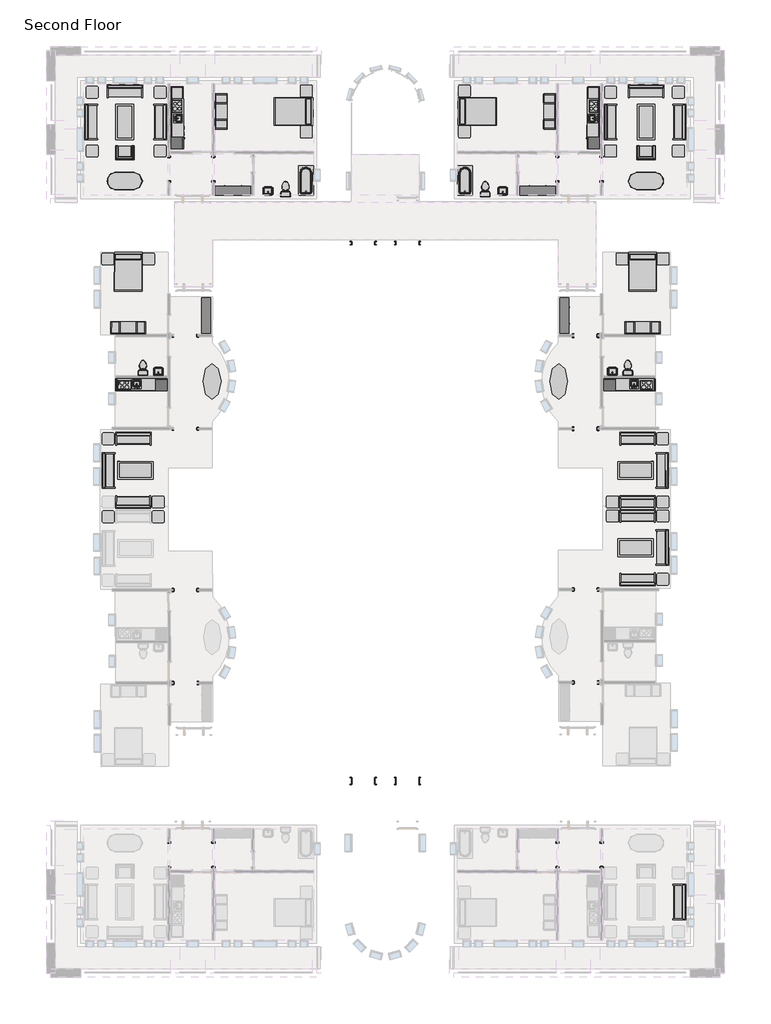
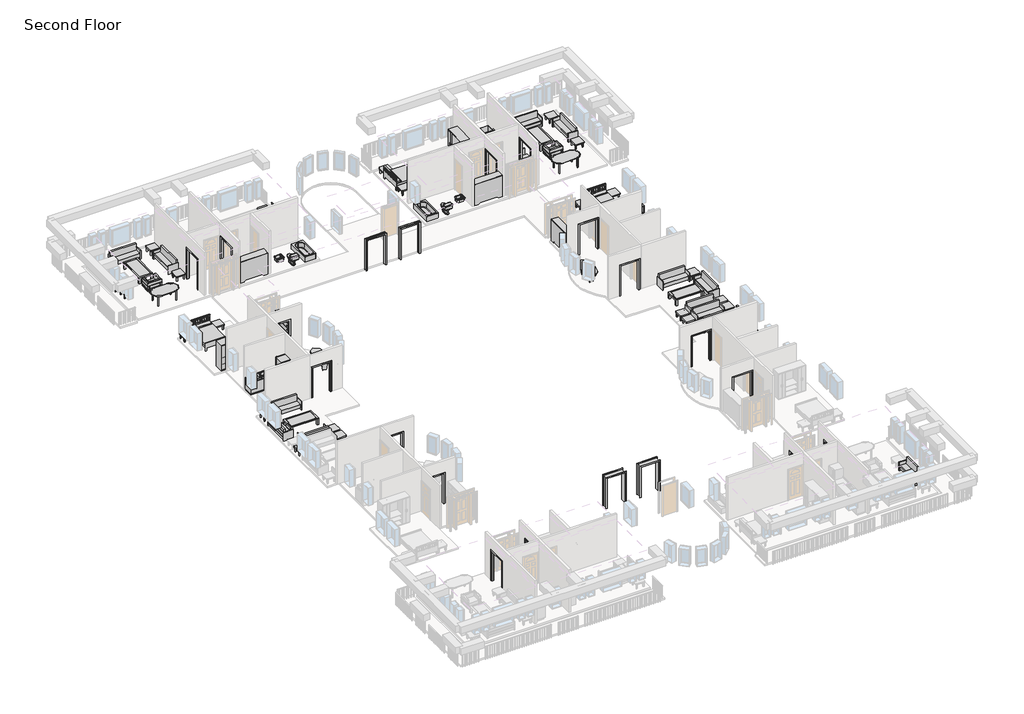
# One storey, part 6 of 6: 65 furniture elements, 24 proxies, 10 flow terminals.
"""IFC4 building model written with IfcOpenShell, lengths in millimetres."""

from ifc_helpers import new_model, si_unit, origin, place, context, project, spatial, transform, mapped, element, save
from components import kitchenette_medium_5_9f73a4de, kitchenette_medium_5_952fb32b, proxy_64a468c4, proxy_b7eaed23, proxy_1227038f, proxy_f44482cc, proxy_d58c73d0, proxy_1659ed5c, flow_terminal_0aeb31e3, flow_terminal_b53e1081, toilet_domestic_3d_toilet_domestic_3d_f7549cf7, toilet_domestic_3d_toilet_domestic_3d_183bbd19, toilet_domestic_3d_toilet_domestic_3d_a08e12bc, toilet_domestic_3d_toilet_domestic_3d_5530cc89, tub_rectangular_3d_tub_rectangular_3d_5e45a89b, tub_rectangular_3d_tub_rectangular_3d_98eb9c7c, furniture_096e7f55, furniture_097b173b, chair_corbu_chair_corbu_2764bdef, chair_corbu_chair_corbu_95fad79a, furniture_7c473f12, furniture_f6e81328, furniture_ddc78764, furniture_328d9d47, furniture_4ef38d96, furniture_dde8a40a, furniture_cd93a443, furniture_c9413244, furniture_2c34a4f9, furniture_cc351095, furniture_43880056, furniture_a7425590, furniture_3a588284, furniture_1befe2a2

model = new_model("IFC4")

# Units and contexts
model_context = context("Model", 3, world=origin())
ifc_project = project(units=[si_unit("LENGTHUNIT", "METRE", prefix="MILLI")], contexts=[model_context])

# Site, building, storey
site = spatial("IfcSite", under=ifc_project)
building = spatial("IfcBuilding", under=site)
storey = spatial("IfcBuildingStorey", under=building, Name="Second Floor", Elevation=3048.0)

# Proxies
placement = place(None, origin())
kitchenette_medium_5_shape = kitchenette_medium_5_9f73a4de(model_context)
element("IfcBuildingElementProxy", 1, Name="Kitchenette - Medium : 5'", ObjectType="Kitchenette - Medium : 5'", at=placement, inside=storey, context=model_context, shape_type="MappedRepresentation", body=[
    mapped(kitchenette_medium_5_shape, transform((-1753.4618267, -5560.5904816, 3048.0), x_axis=(-0.999999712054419, -0.0007588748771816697, 0.0), y_axis=(0.0007588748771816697, -0.999999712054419, 0.0), z_axis=(0.0, 0.0, 1.0))),
])
kitchenette_medium_5_2_shape = kitchenette_medium_5_952fb32b(model_context)
element("IfcBuildingElementProxy", 2, Name="Kitchenette - Medium : 5'", ObjectType="Kitchenette - Medium : 5'", at=placement, inside=storey, context=model_context, shape_type="MappedRepresentation", body=[
    mapped(kitchenette_medium_5_2_shape, transform((-28116.8810859, -5560.5904816, 3048.0), x_axis=(0.999999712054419, -0.0007588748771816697, 0.0), y_axis=(0.0007588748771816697, 0.999999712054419, 0.0), z_axis=(0.0, 0.0, 1.0))),
])
proxy_shape = proxy_64a468c4(model_context)
element("IfcBuildingElementProxy", 3, Name="Kitchenette - Medium : 8'6\"", ObjectType="Kitchenette - Medium : 8'6\"", at=placement, inside=storey, context=model_context, shape_type="MappedRepresentation", body=[
    mapped(proxy_shape, transform((-3887.7589563, 8837.7956433, 3048.0), x_axis=(0.0, -1.0, 0.0), y_axis=(1.0, 0.0, 0.0), z_axis=(0.0, 0.0, 1.0))),
])
proxy_2_shape = proxy_b7eaed23(model_context)
element("IfcBuildingElementProxy", 4, Name="Kitchenette - Medium : 8'6\"", ObjectType="Kitchenette - Medium : 8'6\"", at=placement, inside=storey, context=model_context, shape_type="MappedRepresentation", body=[
    mapped(proxy_2_shape, transform((-25982.5839563, 8837.7956433, 3048.0), x_axis=(0.0, -1.0, 0.0), y_axis=(1.0, 0.0, 0.0), z_axis=(0.0, 0.0, 1.0))),
])
proxy_3_shape = proxy_1227038f(model_context)
element("IfcBuildingElementProxy", 5, Name="Opening-Cased : 48\" x 84\"", ObjectType="Opening-Cased : 48\" x 84\"", at=placement, inside=storey, context=model_context, shape_type="MappedRepresentation", body=[
    mapped(proxy_3_shape, transform((-16086.360113, 2064.2316867, 3048.0), x_axis=(-1.0, 0.0, 0.0), y_axis=(0.0, -1.0, 0.0), z_axis=(0.0, 0.0, 1.0))),
])
element("IfcBuildingElementProxy", 6, Name="Opening-Cased : 48\" x 84\"", ObjectType="Opening-Cased : 48\" x 84\"", at=placement, inside=storey, context=model_context, shape_type="MappedRepresentation", body=[
    mapped(proxy_3_shape, transform((-13800.360113, 2064.2316867, 3048.0), x_axis=(-1.0, 0.0, 0.0), y_axis=(0.0, -1.0, 0.0), z_axis=(0.0, 0.0, 1.0))),
])
element("IfcBuildingElementProxy", 7, Name="Opening-Cased : 48\" x 84\"", ObjectType="Opening-Cased : 48\" x 84\"", at=placement, inside=storey, context=model_context, shape_type="MappedRepresentation", body=[
    mapped(proxy_3_shape, transform((-4617.8254596, -2712.3652832, 3048.0), x_axis=(-0.9999997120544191, -0.0007588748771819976, 0.0), y_axis=(0.0007588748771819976, -0.9999997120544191, 0.0), z_axis=(0.0, 0.0, 1.0))),
])
element("IfcBuildingElementProxy", 8, Name="Opening-Cased : 48\" x 84\"", ObjectType="Opening-Cased : 48\" x 84\"", at=placement, inside=storey, context=model_context, shape_type="MappedRepresentation", body=[
    mapped(proxy_3_shape, transform((-4597.8075056, -7509.7764734, 3048.0), x_axis=(0.9999997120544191, 0.0007588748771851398, 0.0), y_axis=(-0.0007588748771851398, 0.9999997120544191, 0.0), z_axis=(0.0, 0.0, 1.0))),
])
proxy_4_shape = proxy_f44482cc(model_context)
element("IfcBuildingElementProxy", 9, Name="Opening-Cased : 48\" x 84\"", ObjectType="Opening-Cased : 48\" x 84\"", at=placement, inside=storey, context=model_context, shape_type="MappedRepresentation", body=[
    mapped(proxy_4_shape, transform((-3773.4589563, 5882.4203434, 3048.0), x_axis=(0.0, 1.0, 0.0), y_axis=(-1.0, 0.0, 0.0), z_axis=(0.0, 0.0, 1.0))),
])
element("IfcBuildingElementProxy", 10, Name="Opening-Cased : 48\" x 84\"", ObjectType="Opening-Cased : 48\" x 84\"", at=placement, inside=storey, context=model_context, shape_type="MappedRepresentation", body=[
    mapped(proxy_4_shape, transform((-6059.4589563, 5866.04303, 3048.0), x_axis=(0.0, -1.0, 0.0), y_axis=(1.0, 0.0, 0.0), z_axis=(0.0, 0.0, 1.0))),
])
element("IfcBuildingElementProxy", 11, Name="Opening-Cased : 48\" x 84\"", ObjectType="Opening-Cased : 48\" x 84\"", at=placement, inside=storey, context=model_context, shape_type="MappedRepresentation", body=[
    mapped(proxy_4_shape, transform((-26096.8839563, -29490.75697, 3048.0), x_axis=(0.0, -1.0, 0.0), y_axis=(1.0, 0.0, 0.0), z_axis=(0.0, 0.0, 1.0))),
])
element("IfcBuildingElementProxy", 12, Name="Opening-Cased : 48\" x 84\"", ObjectType="Opening-Cased : 48\" x 84\"", at=placement, inside=storey, context=model_context, shape_type="MappedRepresentation", body=[
    mapped(proxy_4_shape, transform((-23810.8839563, -29474.3796566, 3048.0), x_axis=(0.0, 1.0, 0.0), y_axis=(-1.0, 0.0, 0.0), z_axis=(0.0, 0.0, 1.0))),
])
element("IfcBuildingElementProxy", 13, Name="Opening-Cased : 48\" x 84\"", ObjectType="Opening-Cased : 48\" x 84\"", at=placement, inside=storey, context=model_context, shape_type="MappedRepresentation", body=[
    mapped(proxy_4_shape, transform((-25238.9236624, -20625.4457115, 3048.0), x_axis=(0.9999974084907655, 0.0022766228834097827, 0.0), y_axis=(-0.0022766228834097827, 0.9999974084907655, 0.0), z_axis=(0.0, 0.0, 1.0))),
])
element("IfcBuildingElementProxy", 14, Name="Opening-Cased : 48\" x 84\"", ObjectType="Opening-Cased : 48\" x 84\"", at=placement, inside=storey, context=model_context, shape_type="MappedRepresentation", body=[
    mapped(proxy_4_shape, transform((-25266.2228609, -15828.0704291, 3048.0), x_axis=(-0.9999974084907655, -0.002276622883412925, 0.0), y_axis=(0.002276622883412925, -0.9999974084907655, 0.0), z_axis=(0.0, 0.0, 1.0))),
])
proxy_5_shape = proxy_d58c73d0(model_context)
element("IfcBuildingElementProxy", 15, Name="Opening-Cased : 48\" x 84\"", ObjectType="Opening-Cased : 48\" x 84\"", at=placement, inside=storey, context=model_context, shape_type="MappedRepresentation", body=[
    mapped(proxy_5_shape, transform((-26096.8839563, 5882.4203434, 3048.0), x_axis=(0.0, 1.0, 0.0), y_axis=(-1.0, 0.0, 0.0), z_axis=(0.0, 0.0, 1.0))),
])
element("IfcBuildingElementProxy", 16, Name="Opening-Cased : 48\" x 84\"", ObjectType="Opening-Cased : 48\" x 84\"", at=placement, inside=storey, context=model_context, shape_type="MappedRepresentation", body=[
    mapped(proxy_5_shape, transform((-23810.8839563, 5866.04303, 3048.0), x_axis=(0.0, -1.0, 0.0), y_axis=(1.0, 0.0, 0.0), z_axis=(0.0, 0.0, 1.0))),
])
element("IfcBuildingElementProxy", 17, Name="Opening-Cased : 48\" x 84\"", ObjectType="Opening-Cased : 48\" x 84\"", at=placement, inside=storey, context=model_context, shape_type="MappedRepresentation", body=[
    mapped(proxy_5_shape, transform((-3773.4589563, -29490.75697, 3048.0), x_axis=(0.0, -1.0, 0.0), y_axis=(1.0, 0.0, 0.0), z_axis=(0.0, 0.0, 1.0))),
])
element("IfcBuildingElementProxy", 18, Name="Opening-Cased : 48\" x 84\"", ObjectType="Opening-Cased : 48\" x 84\"", at=placement, inside=storey, context=model_context, shape_type="MappedRepresentation", body=[
    mapped(proxy_5_shape, transform((-6059.4589563, -29474.3796566, 3048.0), x_axis=(0.0, 1.0, 0.0), y_axis=(-1.0, 0.0, 0.0), z_axis=(0.0, 0.0, 1.0))),
])
element("IfcBuildingElementProxy", 19, Name="Opening-Cased : 48\" x 84\"", ObjectType="Opening-Cased : 48\" x 84\"", at=placement, inside=storey, context=model_context, shape_type="MappedRepresentation", body=[
    mapped(proxy_5_shape, transform((-25252.517453, -2712.3652832, 3048.0), x_axis=(0.9999997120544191, -0.0007588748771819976, 0.0), y_axis=(0.0007588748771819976, 0.9999997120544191, 0.0), z_axis=(0.0, 0.0, 1.0))),
])
element("IfcBuildingElementProxy", 20, Name="Opening-Cased : 48\" x 84\"", ObjectType="Opening-Cased : 48\" x 84\"", at=placement, inside=storey, context=model_context, shape_type="MappedRepresentation", body=[
    mapped(proxy_5_shape, transform((-25272.535407, -7509.7764734, 3048.0), x_axis=(-0.9999997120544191, 0.0007588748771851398, 0.0), y_axis=(-0.0007588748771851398, -0.9999997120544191, 0.0), z_axis=(0.0, 0.0, 1.0))),
])
element("IfcBuildingElementProxy", 21, Name="Opening-Cased : 48\" x 84\"", ObjectType="Opening-Cased : 48\" x 84\"", at=placement, inside=storey, context=model_context, shape_type="MappedRepresentation", body=[
    mapped(proxy_5_shape, transform((-4604.2554357, -20594.1274219, 3048.0), x_axis=(-0.9999997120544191, -0.0007588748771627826, 0.0), y_axis=(0.0007588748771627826, -0.9999997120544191, 0.0), z_axis=(0.0, 0.0, 1.0))),
])
element("IfcBuildingElementProxy", 22, Name="Opening-Cased : 48\" x 84\"", ObjectType="Opening-Cased : 48\" x 84\"", at=placement, inside=storey, context=model_context, shape_type="MappedRepresentation", body=[
    mapped(proxy_5_shape, transform((-4591.5187723, -15796.6913749, 3048.0), x_axis=(0.9999997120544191, 0.0007588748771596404, 0.0), y_axis=(-0.0007588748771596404, 0.9999997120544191, 0.0), z_axis=(0.0, 0.0, 1.0))),
])
proxy_6_shape = proxy_1659ed5c(model_context)
element("IfcBuildingElementProxy", 23, Name="Opening-Cased : 48\" x 84\"", ObjectType="Opening-Cased : 48\" x 84\"", at=placement, inside=storey, context=model_context, shape_type="MappedRepresentation", body=[
    mapped(proxy_6_shape, transform((-16086.360113, -25672.5683133, 3048.0), x_axis=(-1.0, 0.0, 0.0), y_axis=(0.0, -1.0, 0.0), z_axis=(0.0, 0.0, 1.0))),
])
element("IfcBuildingElementProxy", 24, Name="Opening-Cased : 48\" x 84\"", ObjectType="Opening-Cased : 48\" x 84\"", at=placement, inside=storey, context=model_context, shape_type="MappedRepresentation", body=[
    mapped(proxy_6_shape, transform((-13800.360113, -25672.5683133, 3048.0), x_axis=(-1.0, 0.0, 0.0), y_axis=(0.0, -1.0, 0.0), z_axis=(0.0, 0.0, 1.0))),
])

# Flow terminals
flow_terminal_shape = flow_terminal_0aeb31e3(model_context)
element("IfcFlowTerminal", 25, ObjectType="Sink Vanity-Square : 24\" x 19\"", at=placement, inside=storey, context=model_context, shape_type="MappedRepresentation", body=[
    mapped(flow_terminal_shape, transform((-8864.7572157, 4706.5895878, 3048.0), x_axis=(-1.0, 0.0, 0.0), y_axis=(0.0, -1.0, 0.0), z_axis=(0.0, 0.0, 1.0))),
])
element("IfcFlowTerminal", 26, ObjectType="Sink Vanity-Square : 24\" x 19\"", at=placement, inside=storey, context=model_context, shape_type="MappedRepresentation", body=[
    mapped(flow_terminal_shape, transform((-3205.2166877, -4601.2484326, 3048.0), x_axis=(-0.999999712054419, -0.0007588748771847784, 0.0), y_axis=(0.0007588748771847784, -0.999999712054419, 0.0), z_axis=(0.0, 0.0, 1.0))),
])
flow_terminal_2_shape = flow_terminal_b53e1081(model_context)
element("IfcFlowTerminal", 27, ObjectType="Sink Vanity-Square : 24\" x 19\"", at=placement, inside=storey, context=model_context, shape_type="MappedRepresentation", body=[
    mapped(flow_terminal_2_shape, transform((-21005.5856969, 4706.5895878, 3048.0), x_axis=(1.0, 0.0, 0.0), y_axis=(0.0, 1.0, 0.0), z_axis=(0.0, 0.0, 1.0))),
])
element("IfcFlowTerminal", 28, ObjectType="Sink Vanity-Square : 24\" x 19\"", at=placement, inside=storey, context=model_context, shape_type="MappedRepresentation", body=[
    mapped(flow_terminal_2_shape, transform((-26665.126225, -4601.2484326, 3048.0), x_axis=(0.999999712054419, -0.0007588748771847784, 0.0), y_axis=(0.0007588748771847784, 0.999999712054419, 0.0), z_axis=(0.0, 0.0, 1.0))),
])
toilet_domestic_3d_toilet_domestic_3d_shape = toilet_domestic_3d_toilet_domestic_3d_f7549cf7(model_context)
toilet_domestic_3d_toilet_domestic_3d_2_shape = toilet_domestic_3d_toilet_domestic_3d_183bbd19(model_context)
element("IfcFlowTerminal", 29, ObjectType="Toilet-Domestic-3D : Toilet-Domestic-3D", at=placement, inside=storey, context=model_context, shape_type="MappedRepresentation", body=[
    mapped(toilet_domestic_3d_toilet_domestic_3d_shape, transform((-9782.1466587, 4940.866411, 3048.0), x_axis=(-1.0000000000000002, 0.0, 0.0), y_axis=(0.0, -1.0000000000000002, 0.0), z_axis=(0.0, 0.0, 1.0))),
    mapped(toilet_domestic_3d_toilet_domestic_3d_2_shape, transform((-9782.1466587, 4940.866411, 3048.0), x_axis=(-1.0000000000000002, 0.0, 0.0), y_axis=(0.0, -1.0000000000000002, 0.0), z_axis=(0.0, 0.0, 1.0))),
])
element("IfcFlowTerminal", 30, ObjectType="Toilet-Domestic-3D : Toilet-Domestic-3D", at=placement, inside=storey, context=model_context, shape_type="MappedRepresentation", body=[
    mapped(toilet_domestic_3d_toilet_domestic_3d_shape, transform((-2425.8657006, -4275.1410966, 3048.0), x_axis=(-0.9999997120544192, -0.0007588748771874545, 0.0), y_axis=(0.0007588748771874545, -0.9999997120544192, 0.0), z_axis=(0.0, 0.0, 1.0))),
    mapped(toilet_domestic_3d_toilet_domestic_3d_2_shape, transform((-2425.8657006, -4275.1410966, 3048.0), x_axis=(-0.9999997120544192, -0.0007588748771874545, 0.0), y_axis=(0.0007588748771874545, -0.9999997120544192, 0.0), z_axis=(0.0, 0.0, 1.0))),
])
toilet_domestic_3d_toilet_domestic_3d_3_shape = toilet_domestic_3d_toilet_domestic_3d_a08e12bc(model_context)
toilet_domestic_3d_toilet_domestic_3d_4_shape = toilet_domestic_3d_toilet_domestic_3d_5530cc89(model_context)
element("IfcFlowTerminal", 31, ObjectType="Toilet-Domestic-3D : Toilet-Domestic-3D", at=placement, inside=storey, context=model_context, shape_type="MappedRepresentation", body=[
    mapped(toilet_domestic_3d_toilet_domestic_3d_3_shape, transform((-20088.1962539, 4940.866411, 3048.0), x_axis=(1.0000000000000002, 0.0, 0.0), y_axis=(0.0, 1.0000000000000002, 0.0), z_axis=(0.0, 0.0, 1.0))),
    mapped(toilet_domestic_3d_toilet_domestic_3d_4_shape, transform((-20088.1962539, 4940.866411, 3048.0), x_axis=(1.0000000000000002, 0.0, 0.0), y_axis=(0.0, 1.0000000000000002, 0.0), z_axis=(0.0, 0.0, 1.0))),
])
element("IfcFlowTerminal", 32, ObjectType="Toilet-Domestic-3D : Toilet-Domestic-3D", at=placement, inside=storey, context=model_context, shape_type="MappedRepresentation", body=[
    mapped(toilet_domestic_3d_toilet_domestic_3d_3_shape, transform((-27444.477212, -4275.1410966, 3048.0), x_axis=(0.9999997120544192, -0.0007588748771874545, 0.0), y_axis=(0.0007588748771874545, 0.9999997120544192, 0.0), z_axis=(0.0, 0.0, 1.0))),
    mapped(toilet_domestic_3d_toilet_domestic_3d_4_shape, transform((-27444.477212, -4275.1410966, 3048.0), x_axis=(0.9999997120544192, -0.0007588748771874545, 0.0), y_axis=(0.0007588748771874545, 0.9999997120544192, 0.0), z_axis=(0.0, 0.0, 1.0))),
])
tub_rectangular_3d_tub_rectangular_3d_shape = tub_rectangular_3d_tub_rectangular_3d_5e45a89b(model_context)
element("IfcFlowTerminal", 33, ObjectType="Tub-Rectangular-3D : Tub-Rectangular-3D", at=placement, inside=storey, context=model_context, shape_type="MappedRepresentation", body=[
    mapped(tub_rectangular_3d_tub_rectangular_3d_shape, transform((-11393.4589563, 5637.0471554, 3048.0), x_axis=(0.0, 1.0, 0.0), y_axis=(-1.0, 0.0, 0.0), z_axis=(0.0, 0.0, 1.0))),
])
tub_rectangular_3d_tub_rectangular_3d_2_shape = tub_rectangular_3d_tub_rectangular_3d_98eb9c7c(model_context)
element("IfcFlowTerminal", 34, ObjectType="Tub-Rectangular-3D : Tub-Rectangular-3D", at=placement, inside=storey, context=model_context, shape_type="MappedRepresentation", body=[
    mapped(tub_rectangular_3d_tub_rectangular_3d_2_shape, transform((-18476.8839563, 5637.0471554, 3048.0), x_axis=(0.0, 1.0, 0.0), y_axis=(-1.0, 0.0, 0.0), z_axis=(0.0, 0.0, 1.0))),
])

# Furniture
furniture_shape = furniture_096e7f55(model_context)
element("IfcFurniture", 35, ObjectType="Bed-Shaker : Double 56\" x 78\"", at=placement, inside=storey, context=model_context, shape_type="MappedRepresentation", body=[
    mapped(furniture_shape, transform((-11183.1982802, 8871.8755561, 3048.0), x_axis=(0.0, 1.0, 0.0), y_axis=(-1.0, 0.0, 0.0), z_axis=(0.0, 0.0, 1.0))),
])
element("IfcFurniture", 36, ObjectType="Bed-Shaker : Double 56\" x 78\"", at=placement, inside=storey, context=model_context, shape_type="MappedRepresentation", body=[
    mapped(furniture_shape, transform((-1645.8091062, 1570.2636135, 3048.0), x_axis=(0.999999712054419, 0.0007588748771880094, 0.0), y_axis=(-0.0007588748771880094, 0.999999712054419, 0.0), z_axis=(0.0, 0.0, 1.0))),
])
furniture_2_shape = furniture_097b173b(model_context)
element("IfcFurniture", 37, ObjectType="Bed-Shaker : Double 56\" x 78\"", at=placement, inside=storey, context=model_context, shape_type="MappedRepresentation", body=[
    mapped(furniture_2_shape, transform((-18687.1446324, 8871.8755561, 3048.0), x_axis=(0.0, 1.0, 0.0), y_axis=(-1.0, 0.0, 0.0), z_axis=(0.0, 0.0, 1.0))),
])
element("IfcFurniture", 38, ObjectType="Bed-Shaker : Double 56\" x 78\"", at=placement, inside=storey, context=model_context, shape_type="MappedRepresentation", body=[
    mapped(furniture_2_shape, transform((-28224.5338064, 1570.2636135, 3048.0), x_axis=(-0.999999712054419, 0.0007588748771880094, 0.0), y_axis=(-0.0007588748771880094, -0.999999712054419, 0.0), z_axis=(0.0, 0.0, 1.0))),
])
chair_corbu_chair_corbu_shape = chair_corbu_chair_corbu_2764bdef(model_context)
element("IfcFurniture", 39, ObjectType="Chair-Corbu : Chair-Corbu", at=placement, inside=storey, context=model_context, shape_type="MappedRepresentation", body=[
    mapped(chair_corbu_chair_corbu_shape, transform((-914.0851858, 7193.4962359, 3048.0), x_axis=(-1.0, 0.0, 0.0), y_axis=(0.0, -1.0, 0.0), z_axis=(0.0, 0.0, 1.0))),
])
chair_corbu_chair_corbu_2_shape = chair_corbu_chair_corbu_95fad79a(model_context)
element("IfcFurniture", 40, ObjectType="Chair-Corbu : Chair-Corbu", at=placement, inside=storey, context=model_context, shape_type="MappedRepresentation", body=[
    mapped(chair_corbu_chair_corbu_2_shape, transform((-28956.2577268, 7193.4962359, 3048.0), x_axis=(1.0, 0.0, 0.0), y_axis=(0.0, 1.0, 0.0), z_axis=(0.0, 0.0, 1.0))),
])
furniture_3_shape = furniture_7c473f12(model_context)
element("IfcFurniture", 41, ObjectType="Dresser : 72\" x 60\" x 18\"", at=placement, inside=storey, context=model_context, shape_type="MappedRepresentation", body=[
    mapped(furniture_3_shape, transform((-7344.6522161, 4404.5812326, 3048.0), x_axis=(-1.0, 0.0, 0.0), y_axis=(0.0, -1.0, 0.0), z_axis=(0.0, 0.0, 1.0))),
])
element("IfcFurniture", 42, ObjectType="Dresser : 72\" x 60\" x 18\"", at=placement, inside=storey, context=model_context, shape_type="MappedRepresentation", body=[
    mapped(furniture_3_shape, transform((-6053.2912845, -1406.3342018, 3048.0), x_axis=(-0.0007588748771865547, 0.999999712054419, 0.0), y_axis=(-0.999999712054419, -0.0007588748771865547, 0.0), z_axis=(0.0, 0.0, 1.0))),
])
furniture_4_shape = furniture_f6e81328(model_context)
element("IfcFurniture", 43, ObjectType="Dresser : 72\" x 60\" x 18\"", at=placement, inside=storey, context=model_context, shape_type="MappedRepresentation", body=[
    mapped(furniture_4_shape, transform((-22525.6906965, 4404.5812326, 3048.0), x_axis=(1.0, 0.0, 0.0), y_axis=(0.0, 1.0, 0.0), z_axis=(0.0, 0.0, 1.0))),
])
element("IfcFurniture", 44, ObjectType="Dresser : 72\" x 60\" x 18\"", at=placement, inside=storey, context=model_context, shape_type="MappedRepresentation", body=[
    mapped(furniture_4_shape, transform((-23817.0516281, -1406.3342018, 3048.0), x_axis=(0.0007588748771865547, 0.999999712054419, 0.0), y_axis=(-0.999999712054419, 0.0007588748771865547, 0.0), z_axis=(0.0, 0.0, 1.0))),
])
furniture_5_shape = furniture_ddc78764(model_context)
element("IfcFurniture", 45, ObjectType="Entertainment Center : 72\" x 72\" x 24\"", at=placement, inside=storey, context=model_context, shape_type="MappedRepresentation", body=[
    mapped(furniture_5_shape, transform((-6059.4589563, 8852.8255561, 3048.0), x_axis=(0.0, -1.0, 0.0), y_axis=(1.0, 0.0, 0.0), z_axis=(0.0, 0.0, 1.0))),
])
element("IfcFurniture", 46, ObjectType="Entertainment Center : 72\" x 72\" x 24\"", at=placement, inside=storey, context=model_context, shape_type="MappedRepresentation", body=[
    mapped(furniture_5_shape, transform((-1661.6117025, -2708.9771599, 3048.0), x_axis=(-0.999999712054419, -0.0007588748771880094, 0.0), y_axis=(0.0007588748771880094, -0.999999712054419, 0.0), z_axis=(0.0, 0.0, 1.0))),
])
furniture_6_shape = furniture_328d9d47(model_context)
element("IfcFurniture", 47, ObjectType="Entertainment Center : 72\" x 72\" x 24\"", at=placement, inside=storey, context=model_context, shape_type="MappedRepresentation", body=[
    mapped(furniture_6_shape, transform((-23810.8839563, 8852.8255561, 3048.0), x_axis=(0.0, -1.0, 0.0), y_axis=(1.0, 0.0, 0.0), z_axis=(0.0, 0.0, 1.0))),
])
element("IfcFurniture", 48, ObjectType="Entertainment Center : 72\" x 72\" x 24\"", at=placement, inside=storey, context=model_context, shape_type="MappedRepresentation", body=[
    mapped(furniture_6_shape, transform((-28208.7312102, -2708.9771599, 3048.0), x_axis=(0.999999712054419, -0.0007588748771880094, 0.0), y_axis=(0.0007588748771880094, 0.999999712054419, 0.0), z_axis=(0.0, 0.0, 1.0))),
])
furniture_7_shape = furniture_4ef38d96(model_context)
element("IfcFurniture", 49, ObjectType="Sofa : 72\"", at=placement, inside=storey, context=model_context, shape_type="MappedRepresentation", body=[
    mapped(furniture_7_shape, transform((-1557.8294481, 9741.2775883, 3048.0), x_axis=(1.0, 0.0, 0.0), y_axis=(0.0, 1.0, 0.0), z_axis=(0.0, 0.0, 1.0))),
])
element("IfcFurniture", 50, ObjectType="Sofa : 72\"", at=placement, inside=storey, context=model_context, shape_type="MappedRepresentation", body=[
    mapped(furniture_7_shape, transform((93.5869453, 8383.0021785, 3048.0), x_axis=(0.0, -1.0, 0.0), y_axis=(1.0, 0.0, 0.0), z_axis=(0.0, 0.0, 1.0))),
])
element("IfcFurniture", 51, ObjectType="Sofa : 72\"", at=placement, inside=storey, context=model_context, shape_type="MappedRepresentation", body=[
    mapped(furniture_7_shape, transform((-3170.104858, 8242.2611949, 3048.0), x_axis=(0.0, 1.0, 0.0), y_axis=(-1.0, 0.0, 0.0), z_axis=(0.0, 0.0, 1.0))),
])
element("IfcFurniture", 52, ObjectType="Sofa : 72\"", at=placement, inside=storey, context=model_context, shape_type="MappedRepresentation", body=[
    mapped(furniture_7_shape, transform((-800.8735734, -9586.0001817, 3048.0), x_axis=(0.0007588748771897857, -0.999999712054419, 0.0), y_axis=(0.999999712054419, 0.0007588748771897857, 0.0), z_axis=(0.0, 0.0, 1.0))),
])
element("IfcFurniture", 53, ObjectType="Sofa : 72\"", at=placement, inside=storey, context=model_context, shape_type="MappedRepresentation", body=[
    mapped(furniture_7_shape, transform((-1992.7162667, -8169.1843818, 3048.0), x_axis=(0.999999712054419, 0.0007588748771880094, 0.0), y_axis=(-0.0007588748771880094, 0.999999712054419, 0.0), z_axis=(0.0, 0.0, 1.0))),
])
element("IfcFurniture", 54, ObjectType="Sofa : 72\"", at=placement, inside=storey, context=model_context, shape_type="MappedRepresentation", body=[
    mapped(furniture_7_shape, transform((-1990.2358926, -11437.6723238, 3048.0), x_axis=(0.999999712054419, 0.0007588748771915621, 0.0), y_axis=(-0.0007588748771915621, 0.999999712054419, 0.0), z_axis=(0.0, 0.0, 1.0))),
])
element("IfcFurniture", 55, ObjectType="Sofa : 72\"", at=placement, inside=storey, context=model_context, shape_type="MappedRepresentation", body=[
    mapped(furniture_7_shape, transform((-27879.8851947, -11145.3642112, 3048.0), x_axis=(-0.999999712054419, 0.0007588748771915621, 0.0), y_axis=(-0.0007588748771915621, -0.999999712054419, 0.0), z_axis=(0.0, 0.0, 1.0))),
])
element("IfcFurniture", 56, ObjectType="Sofa : 72\"", at=placement, inside=storey, context=model_context, shape_type="MappedRepresentation", body=[
    mapped(furniture_7_shape, transform((-1989.6898985, -12157.1505212, 3048.0), x_axis=(0.999999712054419, 0.0007588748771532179, 0.0), y_axis=(-0.0007588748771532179, 0.999999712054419, 0.0), z_axis=(0.0, 0.0, 1.0))),
])
furniture_8_shape = furniture_dde8a40a(model_context)
element("IfcFurniture", 57, ObjectType="Sofa : 72\"", at=placement, inside=storey, context=model_context, shape_type="MappedRepresentation", body=[
    mapped(furniture_8_shape, transform((-28312.5134645, 9741.2775883, 3048.0), x_axis=(-1.0, 0.0, 0.0), y_axis=(0.0, -1.0, 0.0), z_axis=(0.0, 0.0, 1.0))),
])
element("IfcFurniture", 58, ObjectType="Sofa : 72\"", at=placement, inside=storey, context=model_context, shape_type="MappedRepresentation", body=[
    mapped(furniture_8_shape, transform((-29963.929858, 8383.0021785, 3048.0), x_axis=(0.0, -1.0, 0.0), y_axis=(1.0, 0.0, 0.0), z_axis=(0.0, 0.0, 1.0))),
])
element("IfcFurniture", 59, ObjectType="Sofa : 72\"", at=placement, inside=storey, context=model_context, shape_type="MappedRepresentation", body=[
    mapped(furniture_8_shape, transform((-26700.2380547, 8242.2611949, 3048.0), x_axis=(0.0, 1.0, 0.0), y_axis=(-1.0, 0.0, 0.0), z_axis=(0.0, 0.0, 1.0))),
])
element("IfcFurniture", 60, ObjectType="Sofa : 72\"", at=placement, inside=storey, context=model_context, shape_type="MappedRepresentation", body=[
    mapped(furniture_8_shape, transform((93.5869453, -31991.3388051, 3048.0), x_axis=(0.0, 1.0, 0.0), y_axis=(-1.0, 0.0, 0.0), z_axis=(0.0, 0.0, 1.0))),
])
element("IfcFurniture", 61, ObjectType="Sofa : 72\"", at=placement, inside=storey, context=model_context, shape_type="MappedRepresentation", body=[
    mapped(furniture_8_shape, transform((-29069.4693392, -9586.0001817, 3048.0), x_axis=(-0.0007588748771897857, -0.999999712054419, 0.0), y_axis=(0.999999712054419, -0.0007588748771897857, 0.0), z_axis=(0.0, 0.0, 1.0))),
])
element("IfcFurniture", 62, ObjectType="Sofa : 72\"", at=placement, inside=storey, context=model_context, shape_type="MappedRepresentation", body=[
    mapped(furniture_8_shape, transform((-27877.6266459, -8169.1843818, 3048.0), x_axis=(-0.999999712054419, 0.0007588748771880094, 0.0), y_axis=(-0.0007588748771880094, -0.999999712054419, 0.0), z_axis=(0.0, 0.0, 1.0))),
])
element("IfcFurniture", 63, ObjectType="Sofa : 72\"", at=placement, inside=storey, context=model_context, shape_type="MappedRepresentation", body=[
    mapped(furniture_8_shape, transform((-797.7404004, -13714.7072641, 3048.0), x_axis=(-0.0007588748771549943, 0.9999997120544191, 0.0), y_axis=(-0.9999997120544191, -0.0007588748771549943, 0.0), z_axis=(0.0, 0.0, 1.0))),
])
element("IfcFurniture", 64, ObjectType="Sofa : 72\"", at=placement, inside=storey, context=model_context, shape_type="MappedRepresentation", body=[
    mapped(furniture_8_shape, transform((-1987.4313498, -15133.3303506, 3048.0), x_axis=(0.999999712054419, 0.0007588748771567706, 0.0), y_axis=(-0.0007588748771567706, 0.999999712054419, 0.0), z_axis=(0.0, 0.0, 1.0))),
])
furniture_9_shape = furniture_cd93a443(model_context)
element("IfcFurniture", 65, ObjectType="Table-Coffee : 36\" x 72\" x 18\"", at=placement, inside=storey, context=model_context, shape_type="MappedRepresentation", body=[
    mapped(furniture_9_shape, transform((-1582.6700341, 8330.8974534, 3048.0), x_axis=(0.0, -1.0, 0.0), y_axis=(1.0, 0.0, 0.0), z_axis=(0.0, 0.0, 1.0))),
])
element("IfcFurniture", 66, ObjectType="Table-Coffee : 36\" x 72\" x 18\"", at=placement, inside=storey, context=model_context, shape_type="MappedRepresentation", body=[
    mapped(furniture_9_shape, transform((-2008.0722116, -9562.0757015, 3048.0), x_axis=(-0.999999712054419, -0.0007588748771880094, 0.0), y_axis=(0.0007588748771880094, -0.999999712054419, 0.0), z_axis=(0.0, 0.0, 1.0))),
])
furniture_10_shape = furniture_c9413244(model_context)
element("IfcFurniture", 67, ObjectType="Table-Coffee : 36\" x 72\" x 18\"", at=placement, inside=storey, context=model_context, shape_type="MappedRepresentation", body=[
    mapped(furniture_10_shape, transform((-28287.6728785, 8330.8974534, 3048.0), x_axis=(0.0, -1.0, 0.0), y_axis=(1.0, 0.0, 0.0), z_axis=(0.0, 0.0, 1.0))),
])
element("IfcFurniture", 68, ObjectType="Table-Coffee : 36\" x 72\" x 18\"", at=placement, inside=storey, context=model_context, shape_type="MappedRepresentation", body=[
    mapped(furniture_10_shape, transform((-27862.270701, -9562.0757015, 3048.0), x_axis=(0.999999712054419, -0.0007588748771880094, 0.0), y_axis=(0.0007588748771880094, 0.999999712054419, 0.0), z_axis=(0.0, 0.0, 1.0))),
])
element("IfcFurniture", 69, ObjectType="Table-Coffee : 36\" x 72\" x 18\"", at=placement, inside=storey, context=model_context, shape_type="MappedRepresentation", body=[
    mapped(furniture_10_shape, transform((-2004.9013369, -13740.4639417, 3048.0), x_axis=(-0.999999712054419, -0.0007588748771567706, 0.0), y_axis=(0.0007588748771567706, -0.999999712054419, 0.0), z_axis=(0.0, 0.0, 1.0))),
])
furniture_11_shape = furniture_2c34a4f9(model_context)
element("IfcFurniture", 70, ObjectType="Table-Dining Oval : 36\" x 72\"", at=placement, inside=storey, context=model_context, shape_type="MappedRepresentation", body=[
    mapped(furniture_11_shape, transform((-1085.6392842, 5622.7300473, 3048.0), x_axis=(1.0, 0.0, 0.0), y_axis=(0.0, 1.0, 0.0), z_axis=(0.0, 0.0, 1.0))),
])
furniture_12_shape = furniture_cc351095(model_context)
element("IfcFurniture", 71, ObjectType="Table-Dining Oval : 36\" x 72\"", at=placement, inside=storey, context=model_context, shape_type="MappedRepresentation", body=[
    mapped(furniture_12_shape, transform((-28784.7036284, 5622.7300473, 3048.0), x_axis=(-1.0, 0.0, 0.0), y_axis=(0.0, -1.0, 0.0), z_axis=(0.0, 0.0, 1.0))),
])
furniture_13_shape = furniture_43880056(model_context)
element("IfcFurniture", 72, ObjectType="Table-Ellipse : 72\" x 36\"", at=placement, inside=storey, context=model_context, shape_type="MappedRepresentation", body=[
    mapped(furniture_13_shape, transform((-5992.1462019, -5072.4339002, 3048.0), x_axis=(0.0007588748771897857, -0.999999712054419, 0.0), y_axis=(0.999999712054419, 0.0007588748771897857, 0.0), z_axis=(0.0, 0.0, 1.0))),
])
furniture_14_shape = furniture_a7425590(model_context)
element("IfcFurniture", 73, ObjectType="Table-Ellipse : 72\" x 36\"", at=placement, inside=storey, context=model_context, shape_type="MappedRepresentation", body=[
    mapped(furniture_14_shape, transform((-23878.1967107, -5072.4339002, 3048.0), x_axis=(-0.0007588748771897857, -0.999999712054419, 0.0), y_axis=(0.999999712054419, -0.0007588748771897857, 0.0), z_axis=(0.0, 0.0, 1.0))),
])
furniture_15_shape = furniture_3a588284(model_context)
element("IfcFurniture", 74, ObjectType="Table-End : 24\" x 24\"", at=placement, inside=storey, context=model_context, shape_type="MappedRepresentation", body=[
    mapped(furniture_15_shape, transform((-119.5925866, 9684.2316867, 3048.0), x_axis=(1.0, 0.0, 0.0), y_axis=(0.0, 1.0, 0.0), z_axis=(0.0, 0.0, 1.0))),
])
element("IfcFurniture", 75, ObjectType="Table-End : 24\" x 24\"", at=placement, inside=storey, context=model_context, shape_type="MappedRepresentation", body=[
    mapped(furniture_15_shape, transform((-3624.7925866, 9684.2316867, 3048.0), x_axis=(1.0, 0.0, 0.0), y_axis=(0.0, 1.0, 0.0), z_axis=(0.0, 0.0, 1.0))),
])
element("IfcFurniture", 76, ObjectType="Table-End : 24\" x 24\"", at=placement, inside=storey, context=model_context, shape_type="MappedRepresentation", body=[
    mapped(furniture_15_shape, transform((-3624.7925866, 6660.0441867, 3048.0), x_axis=(1.0, 0.0, 0.0), y_axis=(0.0, 1.0, 0.0), z_axis=(0.0, 0.0, 1.0))),
])
element("IfcFurniture", 77, ObjectType="Table-End : 24\" x 24\"", at=placement, inside=storey, context=model_context, shape_type="MappedRepresentation", body=[
    mapped(furniture_15_shape, transform((-119.5925866, 6660.0441867, 3048.0), x_axis=(1.0, 0.0, 0.0), y_axis=(0.0, 1.0, 0.0), z_axis=(0.0, 0.0, 1.0))),
])
element("IfcFurniture", 78, ObjectType="Table-End : 24\" x 24\"", at=placement, inside=storey, context=model_context, shape_type="MappedRepresentation", body=[
    mapped(furniture_15_shape, transform((-11164.2346356, 9756.0737357, 3048.0), x_axis=(1.0, 0.0, 0.0), y_axis=(0.0, 1.0, 0.0), z_axis=(0.0, 0.0, 1.0))),
])
element("IfcFurniture", 79, ObjectType="Table-End : 24\" x 24\"", at=placement, inside=storey, context=model_context, shape_type="MappedRepresentation", body=[
    mapped(furniture_15_shape, transform((-18706.1082771, 7949.5773764, 3048.0), x_axis=(-1.0, 0.0, 0.0), y_axis=(0.0, -1.0, 0.0), z_axis=(0.0, 0.0, 1.0))),
])
element("IfcFurniture", 80, ObjectType="Table-End : 24\" x 24\"", at=placement, inside=storey, context=model_context, shape_type="MappedRepresentation", body=[
    mapped(furniture_15_shape, transform((-779.6911754, -7713.5759877, 3048.0), x_axis=(0.0007588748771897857, -0.999999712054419, 0.0), y_axis=(0.999999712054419, 0.0007588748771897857, 0.0), z_axis=(0.0, 0.0, 1.0))),
])
element("IfcFurniture", 81, ObjectType="Table-End : 24\" x 24\"", at=placement, inside=storey, context=model_context, shape_type="MappedRepresentation", body=[
    mapped(furniture_15_shape, transform((-761.5967902, 1551.9709701, 3048.0), x_axis=(0.0007588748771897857, -0.999999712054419, 0.0), y_axis=(0.999999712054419, 0.0007588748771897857, 0.0), z_axis=(0.0, 0.0, 1.0))),
])
element("IfcFurniture", 82, ObjectType="Table-End : 24\" x 24\"", at=placement, inside=storey, context=model_context, shape_type="MappedRepresentation", body=[
    mapped(furniture_15_shape, transform((-2872.8925415, 1550.3687603, 3048.0), x_axis=(0.0007588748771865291, -0.999999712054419, 0.0), y_axis=(0.999999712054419, 0.0007588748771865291, 0.0), z_axis=(0.0, 0.0, 1.0))),
])
element("IfcFurniture", 83, ObjectType="Table-End : 24\" x 24\"", at=placement, inside=storey, context=model_context, shape_type="MappedRepresentation", body=[
    mapped(furniture_15_shape, transform((-471.9426122, -11598.8997075, 3048.0), x_axis=(-0.0007588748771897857, 0.999999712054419, 0.0), y_axis=(-0.999999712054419, -0.0007588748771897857, 0.0), z_axis=(0.0, 0.0, 1.0))),
])
element("IfcFurniture", 84, ObjectType="Table-End : 24\" x 24\"", at=placement, inside=storey, context=model_context, shape_type="MappedRepresentation", body=[
    mapped(furniture_15_shape, transform((-3062.7418662, -11600.8658005, 3048.0), x_axis=(-0.0007588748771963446, 0.999999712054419, 0.0), y_axis=(-0.999999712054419, -0.0007588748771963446, 0.0), z_axis=(0.0, 0.0, 1.0))),
])
element("IfcFurniture", 85, ObjectType="Table-End : 24\" x 24\"", at=placement, inside=storey, context=model_context, shape_type="MappedRepresentation", body=[
    mapped(furniture_15_shape, transform((-27302.2502834, 1550.6000654, 3048.0), x_axis=(-0.0007588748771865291, -0.999999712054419, 0.0), y_axis=(0.999999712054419, -0.0007588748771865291, 0.0), z_axis=(0.0, 0.0, 1.0))),
])
element("IfcFurniture", 86, ObjectType="Table-End : 24\" x 24\"", at=placement, inside=storey, context=model_context, shape_type="MappedRepresentation", body=[
    mapped(furniture_15_shape, transform((-776.6648072, -11701.5421271, 3048.0), x_axis=(0.0007588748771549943, -0.9999997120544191, 0.0), y_axis=(0.9999997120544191, 0.0007588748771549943, 0.0), z_axis=(0.0, 0.0, 1.0))),
])
element("IfcFurniture", 87, ObjectType="Table-End : 24\" x 24\"", at=placement, inside=storey, context=model_context, shape_type="MappedRepresentation", body=[
    mapped(furniture_15_shape, transform((-26807.4959803, -11739.3156588, 3048.0), x_axis=(0.0022766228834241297, -0.9999974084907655, 0.0), y_axis=(0.9999974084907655, 0.0022766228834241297, 0.0), z_axis=(0.0, 0.0, 1.0))),
])
furniture_16_shape = furniture_1befe2a2(model_context)
element("IfcFurniture", 88, ObjectType="Table-End : 24\" x 24\"", at=placement, inside=storey, context=model_context, shape_type="MappedRepresentation", body=[
    mapped(furniture_16_shape, transform((-11164.2346356, 7949.5773764, 3048.0), x_axis=(1.0, 0.0, 0.0), y_axis=(0.0, 1.0, 0.0), z_axis=(0.0, 0.0, 1.0))),
])
element("IfcFurniture", 89, ObjectType="Table-End : 24\" x 24\"", at=placement, inside=storey, context=model_context, shape_type="MappedRepresentation", body=[
    mapped(furniture_16_shape, transform((-29750.750326, 9684.2316867, 3048.0), x_axis=(-1.0, 0.0, 0.0), y_axis=(0.0, -1.0, 0.0), z_axis=(0.0, 0.0, 1.0))),
])
element("IfcFurniture", 90, ObjectType="Table-End : 24\" x 24\"", at=placement, inside=storey, context=model_context, shape_type="MappedRepresentation", body=[
    mapped(furniture_16_shape, transform((-26245.550326, 9684.2316867, 3048.0), x_axis=(-1.0, 0.0, 0.0), y_axis=(0.0, -1.0, 0.0), z_axis=(0.0, 0.0, 1.0))),
])
element("IfcFurniture", 91, ObjectType="Table-End : 24\" x 24\"", at=placement, inside=storey, context=model_context, shape_type="MappedRepresentation", body=[
    mapped(furniture_16_shape, transform((-26245.550326, 6660.0441867, 3048.0), x_axis=(-1.0, 0.0, 0.0), y_axis=(0.0, -1.0, 0.0), z_axis=(0.0, 0.0, 1.0))),
])
element("IfcFurniture", 92, ObjectType="Table-End : 24\" x 24\"", at=placement, inside=storey, context=model_context, shape_type="MappedRepresentation", body=[
    mapped(furniture_16_shape, transform((-29750.750326, 6660.0441867, 3048.0), x_axis=(-1.0, 0.0, 0.0), y_axis=(0.0, -1.0, 0.0), z_axis=(0.0, 0.0, 1.0))),
])
element("IfcFurniture", 93, ObjectType="Table-End : 24\" x 24\"", at=placement, inside=storey, context=model_context, shape_type="MappedRepresentation", body=[
    mapped(furniture_16_shape, transform((-18706.1082771, 9756.0737357, 3048.0), x_axis=(-1.0, 0.0, 0.0), y_axis=(0.0, -1.0, 0.0), z_axis=(0.0, 0.0, 1.0))),
])
element("IfcFurniture", 94, ObjectType="Table-End : 24\" x 24\"", at=placement, inside=storey, context=model_context, shape_type="MappedRepresentation", body=[
    mapped(furniture_16_shape, transform((-29090.6517372, -7713.5759877, 3048.0), x_axis=(-0.0007588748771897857, -0.999999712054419, 0.0), y_axis=(0.999999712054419, -0.0007588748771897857, 0.0), z_axis=(0.0, 0.0, 1.0))),
])
element("IfcFurniture", 95, ObjectType="Table-End : 24\" x 24\"", at=placement, inside=storey, context=model_context, shape_type="MappedRepresentation", body=[
    mapped(furniture_16_shape, transform((-29108.7461224, 1551.9709701, 3048.0), x_axis=(-0.0007588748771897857, -0.999999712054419, 0.0), y_axis=(0.999999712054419, -0.0007588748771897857, 0.0), z_axis=(0.0, 0.0, 1.0))),
])
element("IfcFurniture", 96, ObjectType="Table-End : 24\" x 24\"", at=placement, inside=storey, context=model_context, shape_type="MappedRepresentation", body=[
    mapped(furniture_16_shape, transform((-26807.6010464, -11600.8658005, 3048.0), x_axis=(0.0007588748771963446, 0.999999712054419, 0.0), y_axis=(-0.999999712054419, 0.0007588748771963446, 0.0), z_axis=(0.0, 0.0, 1.0))),
])
element("IfcFurniture", 97, ObjectType="Table-End : 24\" x 24\"", at=placement, inside=storey, context=model_context, shape_type="MappedRepresentation", body=[
    mapped(furniture_16_shape, transform((-773.7161563, -15587.0971519, 3048.0), x_axis=(-0.0007588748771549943, 0.9999997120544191, 0.0), y_axis=(-0.9999997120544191, -0.0007588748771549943, 0.0), z_axis=(0.0, 0.0, 1.0))),
])
element("IfcFurniture", 98, ObjectType="Table-End : 24\" x 24\"", at=placement, inside=storey, context=model_context, shape_type="MappedRepresentation", body=[
    mapped(furniture_16_shape, transform((-3062.664149, -11703.276915, 3048.0), x_axis=(0.0007588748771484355, -0.9999997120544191, 0.0), y_axis=(0.9999997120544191, 0.0007588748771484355, 0.0), z_axis=(0.0, 0.0, 1.0))),
])
element("IfcFurniture", 99, ObjectType="Table-End : 24\" x 24\"", at=placement, inside=storey, context=model_context, shape_type="MappedRepresentation", body=[
    mapped(furniture_16_shape, transform((-29093.4900561, -11744.5200187, 3048.0), x_axis=(0.0022766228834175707, -0.9999974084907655, 0.0), y_axis=(0.9999974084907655, 0.0022766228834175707, 0.0), z_axis=(0.0, 0.0, 1.0))),
])

save(model, "model.ifc")
